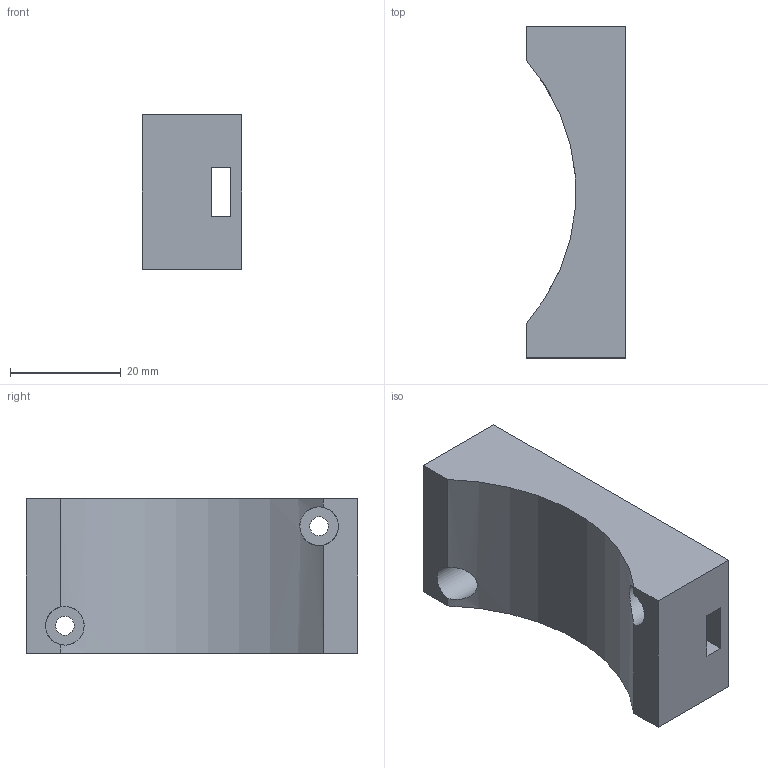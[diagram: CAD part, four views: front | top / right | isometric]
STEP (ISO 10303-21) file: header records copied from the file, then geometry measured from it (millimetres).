
FILE_DESCRIPTION(('Open CASCADE Model'),'2;1');
FILE_NAME('Open CASCADE Shape Model','2026-10-13T15:40:05',('Author'),( 'Open CASCADE'),'Open CASCADE STEP processor 7.9','Open CASCADE 7.9' ,'Unknown');
FILE_SCHEMA(('AUTOMOTIVE_DESIGN { 1 0 10303 214 1 1 1 1 }'));
Length unit declared in the file: millimetre
Products named in the file (1): Open CASCADE STEP translator 7.9 3
Bounding box: 18 x 60 x 28 mm (x, y, z)
Volume: 19352.1 mm3; surface area: 7987.7 mm2
Topology: 1 solids, 1 shells, 18 faces, 48 edges, 32 vertices
Faces by surface type: plane 13, cylinder 5
Full cylindrical faces by diameter (mm): 3.4 x2, 7 x2
Entity records: 1595 total; most frequent: CARTESIAN_POINT 624, DIRECTION 174, LINE 112, VECTOR 112, ORIENTED_EDGE 96, PCURVE 96, DEFINITIONAL_REPRESENTATION 96, EDGE_CURVE 48
